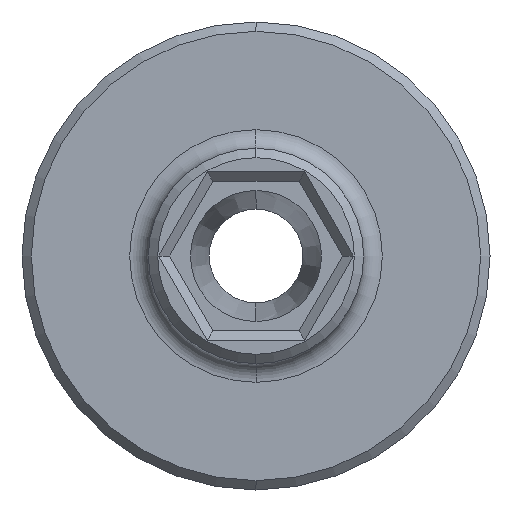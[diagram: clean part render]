
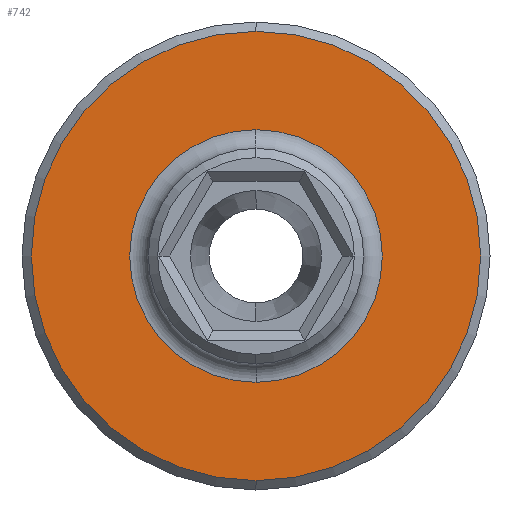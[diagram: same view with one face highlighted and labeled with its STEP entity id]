
A CAD part, left-side view. The second image highlights one B-rep face of the part: STEP entity #742.
In plain terms, the highlighted planar face has unit normal (-1, 0, 0).
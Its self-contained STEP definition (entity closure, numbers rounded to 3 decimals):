
#33 = AXIS2_PLACEMENT_3D ( 'NONE', #917, #815, #68 ) ;
#68 = DIRECTION ( 'NONE',  ( 0., 0., -1. ) ) ;
#81 = EDGE_LOOP ( 'NONE', ( #1082, #734 ) ) ;
#121 = EDGE_CURVE ( 'NONE', #1367, #698, #848, .T. ) ;
#173 = EDGE_CURVE ( 'NONE', #826, #382, #1186, .T. ) ;
#192 = CARTESIAN_POINT ( 'NONE',  ( 25., 0., -6.75 ) ) ;
#195 = CARTESIAN_POINT ( 'NONE',  ( 25., 0., 0. ) ) ;
#293 = FACE_OUTER_BOUND ( 'NONE', #81, .T. ) ;
#327 = CARTESIAN_POINT ( 'NONE',  ( 25., 0., 0. ) ) ;
#332 = DIRECTION ( 'NONE',  ( 1., 0., 0. ) ) ;
#382 = VERTEX_POINT ( 'NONE', #192 ) ;
#417 = EDGE_CURVE ( 'NONE', #698, #1367, #1383, .T. ) ;
#446 = CARTESIAN_POINT ( 'NONE',  ( 25., 0., -12. ) ) ;
#482 = EDGE_CURVE ( 'NONE', #382, #826, #1097, .T. ) ;
#558 = ORIENTED_EDGE ( 'NONE', *, *, #482, .T. ) ;
#573 = FACE_BOUND ( 'NONE', #885, .T. ) ;
#594 = CARTESIAN_POINT ( 'NONE',  ( 25., 0., 0. ) ) ;
#621 = PLANE ( 'NONE',  #650 ) ;
#650 = AXIS2_PLACEMENT_3D ( 'NONE', #195, #332, #1275 ) ;
#698 = VERTEX_POINT ( 'NONE', #1206 ) ;
#734 = ORIENTED_EDGE ( 'NONE', *, *, #417, .T. ) ;
#742 = ADVANCED_FACE ( 'NONE', ( #293, #573 ), #621, .F. ) ;
#779 = DIRECTION ( 'NONE',  ( 0., 0., -1. ) ) ;
#815 = DIRECTION ( 'NONE',  ( -1., 0., 0. ) ) ;
#817 = CARTESIAN_POINT ( 'NONE',  ( 25., 0., 6.75 ) ) ;
#826 = VERTEX_POINT ( 'NONE', #817 ) ;
#848 = CIRCLE ( 'NONE', #881, 12. ) ;
#881 = AXIS2_PLACEMENT_3D ( 'NONE', #900, #1246, #1179 ) ;
#885 = EDGE_LOOP ( 'NONE', ( #558, #1168 ) ) ;
#900 = CARTESIAN_POINT ( 'NONE',  ( 25., 0., 0. ) ) ;
#917 = CARTESIAN_POINT ( 'NONE',  ( 25., 0., 0. ) ) ;
#940 = AXIS2_PLACEMENT_3D ( 'NONE', #594, #1244, #779 ) ;
#954 = AXIS2_PLACEMENT_3D ( 'NONE', #327, #1132, #1010 ) ;
#1010 = DIRECTION ( 'NONE',  ( 0., 0., -1. ) ) ;
#1082 = ORIENTED_EDGE ( 'NONE', *, *, #121, .T. ) ;
#1097 = CIRCLE ( 'NONE', #940, 6.75 ) ;
#1132 = DIRECTION ( 'NONE',  ( 1., 0., 0. ) ) ;
#1168 = ORIENTED_EDGE ( 'NONE', *, *, #173, .T. ) ;
#1179 = DIRECTION ( 'NONE',  ( 0., 0., -1. ) ) ;
#1186 = CIRCLE ( 'NONE', #954, 6.75 ) ;
#1206 = CARTESIAN_POINT ( 'NONE',  ( 25., 0., 12. ) ) ;
#1244 = DIRECTION ( 'NONE',  ( 1., 0., 0. ) ) ;
#1246 = DIRECTION ( 'NONE',  ( -1., 0., 0. ) ) ;
#1275 = DIRECTION ( 'NONE',  ( 0., 0., -1. ) ) ;
#1367 = VERTEX_POINT ( 'NONE', #446 ) ;
#1383 = CIRCLE ( 'NONE', #33, 12. ) ;
